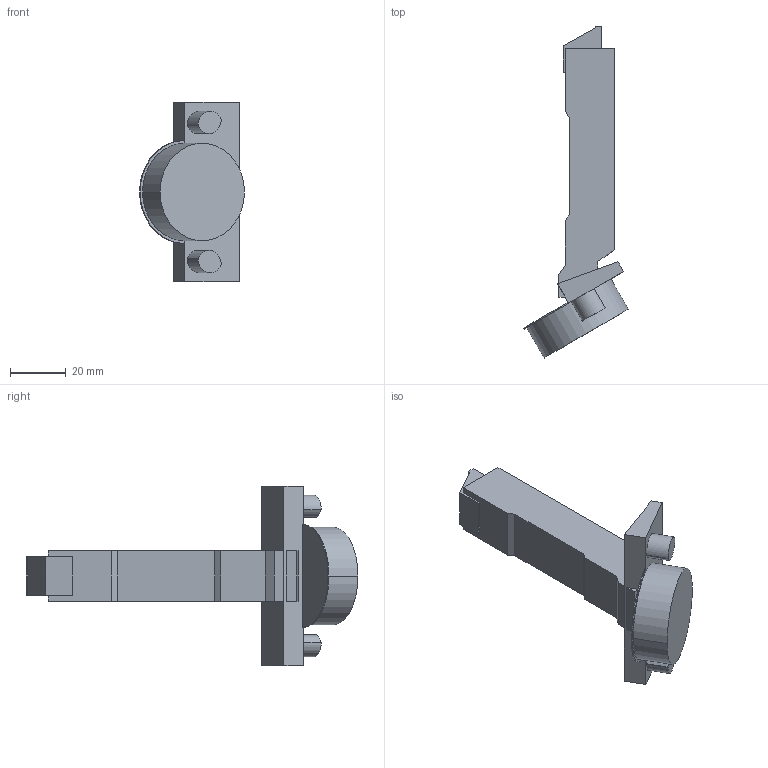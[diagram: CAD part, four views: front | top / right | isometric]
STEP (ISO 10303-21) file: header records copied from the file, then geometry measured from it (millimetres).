
FILE_DESCRIPTION (( 'STEP AP214' ), '1' );
FILE_NAME ('Scharnier TS Impresso 120°_-30° HS_BB, aufliegend - Neu -.step', '2019-09-17T09:44:56', ( '' ), ( '' ), 'SwSTEP 2.0', 'SolidWorks 2019', '' );
FILE_SCHEMA (( 'AUTOMOTIVE_DESIGN' ));
Length unit declared in the file: millimetre
Products named in the file (1): Scharnier TS Impresso 120°_-30° HS_BB, aufliegend - Neu -
Bounding box: 37.68 x 119.25 x 64.5 mm (x, y, z)
Volume: 47929.5 mm3; surface area: 13210.1 mm2
Topology: 1 solids, 1 shells, 55 faces, 135 edges, 90 vertices
Faces by surface type: plane 40, cylinder 15
Entity records: 1653 total; most frequent: CARTESIAN_POINT 281, DIRECTION 277, ORIENTED_EDGE 270, EDGE_CURVE 135, VECTOR 105, LINE 105, VERTEX_POINT 90, AXIS2_PLACEMENT_3D 86
